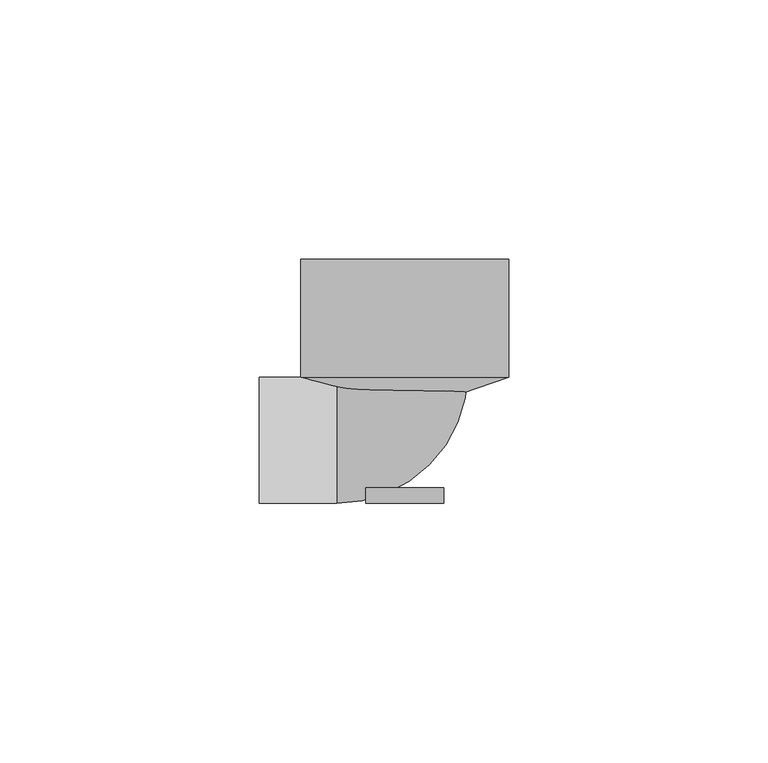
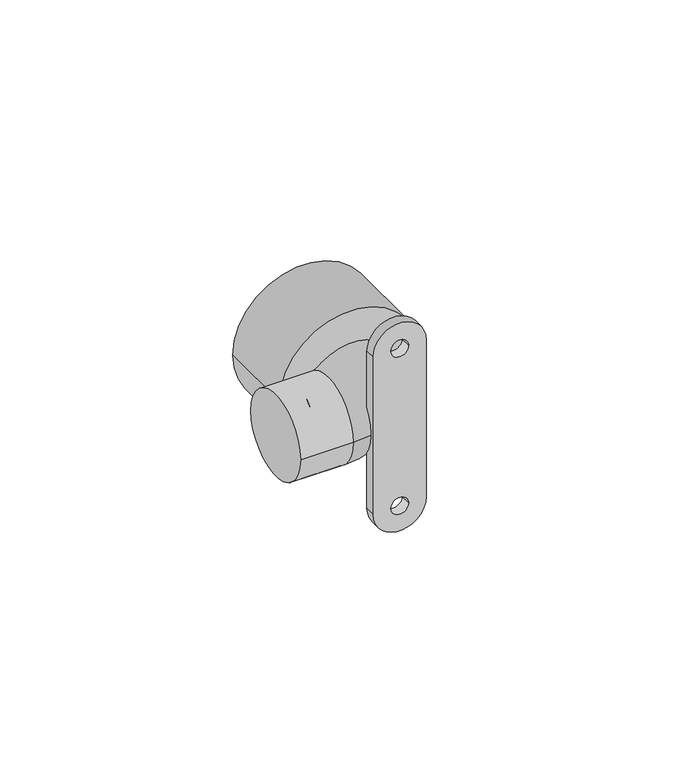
"""IFC4 building model written with IfcOpenShell, lengths in millimetres: pipe fitting geometry, KAN-therm PP kolano z wieszakiem : KAN-therm PP kolano z wieszakiem."""

from ifc_helpers import new_model, si_unit, point, frame, frame_2d, origin, place, context, project, spatial, polyline, circle_curve, ellipse_curve, trimmed, segment, composite_curve, outline, extrude, source, transform, mapped, element, save
from ifc_brep_helpers import plane_surface, cylinder_surface, revolved_surface, advanced_brep


def pipe_fitting_613a564c(model_context):
    return source(origin(), model_context, "Body", "SolidModel", [
        extrude(outline(composite_curve([segment(trimmed(circle_curve(frame_2d((23.5, 0.0)), 7.5), [point((23.5, 7.5))], [point((23.5, -7.5))], False, "CARTESIAN"), True, "CONTINUOUS"), segment(polyline([(23.5, -7.5), (-23.5, -7.5)]), True, "CONTINUOUS"), segment(trimmed(circle_curve(frame_2d((-23.5, 0.0)), 7.5), [point((-23.5, -7.5))], [point((-23.5, 7.5))], False, "CARTESIAN"), True, "CONTINUOUS"), segment(polyline([(-23.5, 7.5), (23.5, 7.5)]), True, "CONTINUOUS")], self_intersect=False), holes=[composite_curve([segment(trimmed(circle_curve(frame_2d((23.5, 0.0)), 2.5), [point((23.5, 2.5))], [point((23.5, -2.5))], True, "CARTESIAN"), True, "CONTINUOUS"), segment(trimmed(circle_curve(frame_2d((23.5, 0.0)), 2.5), [point((23.5, -2.5))], [point((23.5, 2.5))], True, "CARTESIAN"), True, "CONTINUOUS")], self_intersect=False), composite_curve([segment(trimmed(circle_curve(frame_2d((-23.5, 0.0)), 2.5), [point((-23.5, 2.5))], [point((-23.5, -2.5))], True, "CARTESIAN"), True, "CONTINUOUS"), segment(trimmed(circle_curve(frame_2d((-23.5, 0.0)), 2.5), [point((-23.5, -2.5))], [point((-23.5, 2.5))], True, "CARTESIAN"), True, "CONTINUOUS")], self_intersect=False)]), frame((0.0, -12.15, 0.0), z_axis=(0.0, 1.0, 0.0), x_axis=(0.0, 0.0, 1.0)), (0.0, 0.0, 1.0), 3.0),
        advanced_brep(
        [(-12.15, 22.85, 0.0), (12.15, 22.85, 0.0), (-12.15, 13.15, 0.0), (12.15, 13.15, 0.0), (-28.0, 12.15, 0.0), (-28.0, -12.15, 0.0), (-13.15, -12.15, 0.0), (-13.15, 12.15, 0.0)],
        [
            (0, 1, circle_curve(frame((0.0, 22.85, 0.0), z_axis=(0.0, 1.0, 0.0), x_axis=(1.0, 0.0, 0.0)), 12.15)),
            (1, 0, circle_curve(frame((0.0, 22.85, 0.0), z_axis=(0.0, 1.0, 0.0), x_axis=(1.0, 0.0, 0.0)), 12.15)),
            (0, 2),
            (2, 3, circle_curve(frame((0.0, 13.15, 0.0), z_axis=(0.0, 1.0, 0.0), x_axis=(1.0, 0.0, 0.0)), 12.15)),
            (3, 1),
            (3, 2, circle_curve(frame((0.0, 13.15, 0.0), z_axis=(0.0, 1.0, 0.0), x_axis=(1.0, 0.0, 0.0)), 12.15)),
            (4, 5, circle_curve(frame((-28.0, 0.0, 0.0), z_axis=(-1.0, 0.0, 0.0), x_axis=(0.0, -1.0, 0.0)), 12.15)),
            (5, 4, circle_curve(frame((-28.0, 0.0, 0.0), z_axis=(-1.0, 0.0, 0.0), x_axis=(0.0, -1.0, 0.0)), 12.15)),
            (6, 7, circle_curve(frame((-13.15, 0.0, 0.0), z_axis=(-1.0, 0.0, 0.0), x_axis=(0.0, -1.0, 0.0)), 12.15)),
            (7, 4),
            (5, 6),
            (7, 6, circle_curve(frame((-13.15, 0.0, 0.0), z_axis=(-1.0, 0.0, 0.0), x_axis=(0.0, -1.0, 0.0)), 12.15)),
            (6, 3, circle_curve(frame((-13.15, 13.15, 0.0), z_axis=(0.0, 0.0, 1.0), x_axis=(1.0, 0.0, 0.0)), 25.3)),
            (2, 7, circle_curve(frame((-13.15, 13.15, 0.0), z_axis=(0.0, 0.0, -1.0), x_axis=(1.0, 0.0, 0.0)), 1.0)),
        ],
        [
            plane_surface(frame((0.0, 22.85, 0.0), z_axis=(0.0, 1.0, 0.0), x_axis=(0.0, 0.0, 1.0))),
            cylinder_surface(frame((0.0, 22.85, 0.0), z_axis=(0.0, 1.0, 0.0), x_axis=(1.0, 0.0, 0.0)), 12.15),
            plane_surface(frame((-28.0, 0.0, 0.0), z_axis=(-1.0, 0.0, 0.0), x_axis=(0.0, 0.0, 1.0))),
            cylinder_surface(frame((-13.15, 0.0, 0.0), z_axis=(1.0, 0.0, 0.0), x_axis=(0.0, -1.0, 0.0)), 12.15),
            revolved_surface(trimmed(ellipse_curve(frame((0.0, 13.15, 0.0), z_axis=(0.0, 1.0, 0.0), x_axis=(1.0, 0.0, 0.0)), 12.15, 12.15), [point((-12.15, 13.15, 0.0))], [point((12.15, 13.15, 0.0))], True, "CARTESIAN"), (-13.15, 13.15, 0.0), (0.0, 0.0, -1.0)),
            revolved_surface(trimmed(ellipse_curve(frame((0.0, 13.15, 0.0), z_axis=(0.0, 1.0, 0.0), x_axis=(1.0, 0.0, 0.0)), 12.15, 12.15), [point((12.15, 13.15, 0.0))], [point((-12.15, 13.15, 0.0))], True, "CARTESIAN"), (-13.15, 13.15, 0.0), (0.0, 0.0, -1.0)),
        ],
        [
            (0, [[1, 2]]),
            (1, [[-1, 3, 4, 5]]),
            (1, [[-2, -5, 6, -3]]),
            (2, [[7, 8]]),
            (3, [[9, 10, -8, 11]]),
            (3, [[12, -11, -7, -10]]),
            (4, [[13, -4, 14, -9]]),
            (5, [[-14, -6, -13, -12]]),
        ],
    ),
        advanced_brep(
        [(0.0, 34.85, 0.0), (20.0, 34.85, 0.0), (-20.0, 34.85, 0.0), (-8.0, 8.0, 0.0), (8.0, 8.0, 0.0), (0.0, 8.0, 0.0), (20.0, 12.15, 0.0), (-20.0, 12.15, 0.0)],
        [
            (0, 1),
            (1, 2, circle_curve(frame((0.0, 34.85, 0.0), z_axis=(0.0, 1.0, 0.0), x_axis=(1.0, 0.0, 0.0)), 20.0)),
            (2, 0),
            (2, 1, circle_curve(frame((0.0, 34.85, 0.0), z_axis=(0.0, 1.0, 0.0), x_axis=(1.0, 0.0, 0.0)), 20.0)),
            (3, 4, circle_curve(frame((0.0, 8.0, 0.0), z_axis=(0.0, -1.0, 0.0), x_axis=(1.0, 0.0, 0.0)), 8.0)),
            (4, 5),
            (5, 3),
            (4, 3, circle_curve(frame((0.0, 8.0, 0.0), z_axis=(0.0, -1.0, 0.0), x_axis=(1.0, 0.0, 0.0)), 8.0)),
            (1, 6),
            (6, 7, circle_curve(frame((0.0, 12.15, 0.0), z_axis=(0.0, 1.0, 0.0), x_axis=(1.0, 0.0, 0.0)), 20.0)),
            (7, 2),
            (7, 6, circle_curve(frame((0.0, 12.15, 0.0), z_axis=(0.0, 1.0, 0.0), x_axis=(1.0, 0.0, 0.0)), 20.0)),
            (6, 4),
            (3, 7),
        ],
        [
            plane_surface(frame((0.0, 34.85, 0.0), z_axis=(0.0, 1.0, 0.0), x_axis=(1.0, 0.0, 0.0))),
            plane_surface(frame((0.0, 8.0, 0.0), z_axis=(0.0, -1.0, 0.0), x_axis=(1.0, 0.0, 0.0))),
            cylinder_surface(frame((0.0, 1997.85, 0.0), z_axis=(0.0, 1.0, 0.0), x_axis=(1.0, 0.0, 0.0)), 20.0),
            revolved_surface(polyline([(8.0, 8.0, 0.0), (20.0, 12.15, 0.0)]), (0.0, 1997.85, 0.0), (0.0, 1.0, 0.0)),
        ],
        [
            (0, [[1, 2, 3]]),
            (0, [[-3, 4, -1]]),
            (1, [[5, 6, 7]]),
            (1, [[8, -7, -6]]),
            (2, [[-2, 9, 10, 11]]),
            (2, [[-4, -11, 12, -9]]),
            (3, [[-10, 13, -5, 14]]),
            (3, [[-12, -14, -8, -13]]),
        ],
    ),
        advanced_brep(
        [(-14.7, 12.15, 0.0), (-14.7, -12.15, 0.0), (-28.0, -12.15, 0.0), (-28.0, 12.15, 0.0), (-28.0, 0.0, 0.0), (-14.7, 0.0, 0.0)],
        [
            (0, 1, circle_curve(frame((-14.7, 0.0, 0.0), z_axis=(-1.0, 0.0, 0.0), x_axis=(0.0, -1.0, 0.0)), 12.15)),
            (1, 2),
            (2, 3, circle_curve(frame((-28.0, 0.0, 0.0), z_axis=(1.0, 0.0, 0.0), x_axis=(0.0, -1.0, 0.0)), 12.15)),
            (3, 0),
            (1, 0, circle_curve(frame((-14.7, 0.0, 0.0), z_axis=(-1.0, 0.0, 0.0), x_axis=(0.0, -1.0, 0.0)), 12.15)),
            (3, 2, circle_curve(frame((-28.0, 0.0, 0.0), z_axis=(1.0, 0.0, 0.0), x_axis=(0.0, -1.0, 0.0)), 12.15)),
            (2, 4),
            (4, 3),
            (5, 1),
            (0, 5),
        ],
        [
            cylinder_surface(frame((2000.5, 0.0, 0.0), z_axis=(1.0, 0.0, 0.0), x_axis=(0.0, -1.0, 0.0)), 12.15),
            plane_surface(frame((-28.0, 0.0, 0.0), z_axis=(-1.0, 0.0, 0.0), x_axis=(0.0, -1.0, 0.0))),
            plane_surface(frame((-14.7, 0.0, 0.0), z_axis=(1.0, 0.0, 0.0), x_axis=(0.0, -1.0, 0.0))),
        ],
        [
            (0, [[1, 2, 3, 4]]),
            (0, [[5, -4, 6, -2]]),
            (1, [[-3, 7, 8]]),
            (1, [[-6, -8, -7]]),
            (2, [[9, -1, 10]]),
            (2, [[-10, -5, -9]]),
        ],
    ),
    ])


if __name__ == "__main__":
    model = new_model("IFC4")
    model_context = context("Model", 3, world=origin())
    ifc_project = project(units=[si_unit("LENGTHUNIT", "METRE", prefix="MILLI")], contexts=[model_context])
    site = spatial("IfcSite", under=ifc_project)
    building = spatial("IfcBuilding", under=site)
    placement = place(None, origin())
    pipe_fitting_shape = pipe_fitting_613a564c(model_context)
    element("IfcPipeFitting", 1, ObjectType="KAN-therm PP kolano z wieszakiem : KAN-therm PP kolano z wieszakiem", at=placement, inside=building, context=model_context, shape_type="MappedRepresentation", body=[
        mapped(pipe_fitting_shape, transform((0.0, 0.0, 0.0), x_axis=(1.0, 0.0, 0.0), y_axis=(0.0, 1.0, 0.0), z_axis=(0.0, 0.0, 1.0))),
    ])
    save(model, "model.ifc")
